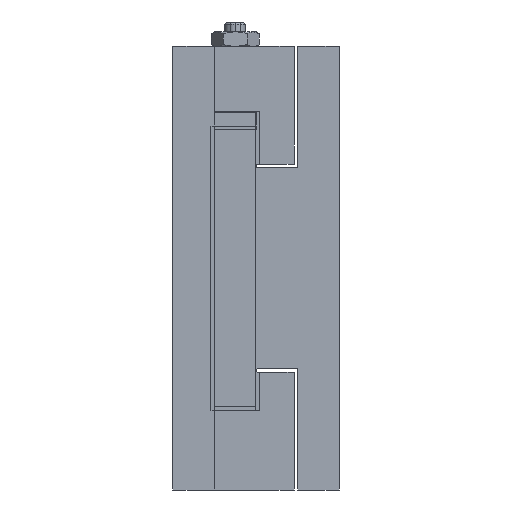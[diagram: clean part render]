
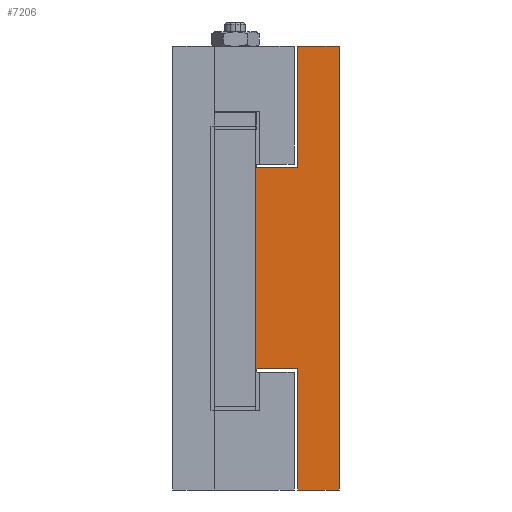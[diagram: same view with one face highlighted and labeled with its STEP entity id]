
A CAD part, left-side view. The second image highlights one B-rep face of the part: STEP entity #7206.
In plain terms, the highlighted planar face has unit normal (-1, 0, 0).
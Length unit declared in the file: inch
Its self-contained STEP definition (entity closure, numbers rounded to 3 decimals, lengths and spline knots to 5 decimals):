
#3136 = LINE ( 'NONE', #3160, #3186 ) ;
#3160 = CARTESIAN_POINT ( 'NONE',  ( 0., 0.375, 2. ) ) ;
#3185 = DIRECTION ( 'NONE',  ( 0., 0., -1. ) ) ;
#3186 = VECTOR ( 'NONE', #3185, 39.37008 ) ;
#3359 = DIRECTION ( 'NONE',  ( 0., -1., 0. ) ) ;
#3360 = VECTOR ( 'NONE', #3359, 39.37008 ) ;
#3361 = CARTESIAN_POINT ( 'NONE',  ( 0., 0.75, -0.90625 ) ) ;
#3362 = LINE ( 'NONE', #3361, #3360 ) ;
#4283 = CARTESIAN_POINT ( 'NONE',  ( 0., 0.75, -0.90625 ) ) ;
#4295 = CARTESIAN_POINT ( 'NONE',  ( 0., 0.75, 0.90625 ) ) ;
#4330 = CARTESIAN_POINT ( 'NONE',  ( 0., 0., 2. ) ) ;
#4333 = DIRECTION ( 'NONE',  ( 0., 0., 1. ) ) ;
#4334 = VECTOR ( 'NONE', #4333, 39.37008 ) ;
#4335 = CARTESIAN_POINT ( 'NONE',  ( 0., 0.75, 2. ) ) ;
#4336 = LINE ( 'NONE', #4335, #4334 ) ;
#4340 = FACE_OUTER_BOUND ( 'NONE', #7199, .T. ) ;
#4350 = PLANE ( 'NONE',  #4378 ) ;
#4356 = DIRECTION ( 'NONE',  ( 0., 0., -1. ) ) ;
#4357 = VECTOR ( 'NONE', #4356, 39.37008 ) ;
#4358 = CARTESIAN_POINT ( 'NONE',  ( 0., 0., 2. ) ) ;
#4359 = LINE ( 'NONE', #4358, #4357 ) ;
#4360 = CARTESIAN_POINT ( 'NONE',  ( 0., 0.375, 2. ) ) ;
#4361 = CARTESIAN_POINT ( 'NONE',  ( 0., 0., -2. ) ) ;
#4362 = DIRECTION ( 'NONE',  ( 0., -1., 0. ) ) ;
#4363 = VECTOR ( 'NONE', #4362, 39.37008 ) ;
#4364 = CARTESIAN_POINT ( 'NONE',  ( 0., 0.75, 2. ) ) ;
#4365 = LINE ( 'NONE', #4417, #4415 ) ;
#4369 = LINE ( 'NONE', #4364, #4363 ) ;
#4374 = DIRECTION ( 'NONE',  ( 0., 0., -1. ) ) ;
#4375 = DIRECTION ( 'NONE',  ( 1., 0., 0. ) ) ;
#4378 = AXIS2_PLACEMENT_3D ( 'NONE', #4330, #4375, #4374 ) ;
#4380 = CARTESIAN_POINT ( 'NONE',  ( 0., 0., 2. ) ) ;
#4401 = DIRECTION ( 'NONE',  ( 0., 0., -1. ) ) ;
#4402 = VECTOR ( 'NONE', #4401, 39.37008 ) ;
#4403 = CARTESIAN_POINT ( 'NONE',  ( 0., 0.375, -2. ) ) ;
#4404 = LINE ( 'NONE', #4403, #4402 ) ;
#4407 = DIRECTION ( 'NONE',  ( 0., 1., 0. ) ) ;
#4408 = CARTESIAN_POINT ( 'NONE',  ( 0., 0.375, 0.90625 ) ) ;
#4410 = VECTOR ( 'NONE', #4407, 39.37008 ) ;
#4411 = CARTESIAN_POINT ( 'NONE',  ( 0., 0.75, 0.90625 ) ) ;
#4412 = LINE ( 'NONE', #4411, #4410 ) ;
#4413 = CARTESIAN_POINT ( 'NONE',  ( 0., 0.375, -0.90625 ) ) ;
#4414 = DIRECTION ( 'NONE',  ( 0., 1., 0. ) ) ;
#4415 = VECTOR ( 'NONE', #4414, 39.37008 ) ;
#4416 = CARTESIAN_POINT ( 'NONE',  ( 0., 0.375, -2. ) ) ;
#4417 = CARTESIAN_POINT ( 'NONE',  ( 0., 0.75, -2. ) ) ;
#5987 = ORIENTED_EDGE ( 'NONE', *, *, #6659, .T. ) ;
#6562 = EDGE_CURVE ( 'NONE', #7220, #7225, #3136, .T. ) ;
#6567 = ORIENTED_EDGE ( 'NONE', *, *, #7224, .T. ) ;
#6568 = ORIENTED_EDGE ( 'NONE', *, *, #6562, .T. ) ;
#6659 = EDGE_CURVE ( 'NONE', #7160, #7221, #3362, .T. ) ;
#7160 = VERTEX_POINT ( 'NONE', #4283 ) ;
#7193 = VERTEX_POINT ( 'NONE', #4295 ) ;
#7198 = EDGE_CURVE ( 'NONE', #7160, #7193, #4336, .T. ) ;
#7199 = EDGE_LOOP ( 'NONE', ( #5987, #7228, #7222, #7227, #7218, #6568, #6567, #7215 ) ) ;
#7206 = ADVANCED_FACE ( 'NONE', ( #4340 ), #4350, .F. ) ;
#7211 = VERTEX_POINT ( 'NONE', #4380 ) ;
#7214 = EDGE_CURVE ( 'NONE', #7220, #7211, #4369, .T. ) ;
#7215 = ORIENTED_EDGE ( 'NONE', *, *, #7198, .F. ) ;
#7216 = EDGE_CURVE ( 'NONE', #7211, #7226, #4359, .T. ) ;
#7217 = EDGE_CURVE ( 'NONE', #7226, #7219, #4365, .T. ) ;
#7218 = ORIENTED_EDGE ( 'NONE', *, *, #7214, .F. ) ;
#7219 = VERTEX_POINT ( 'NONE', #4416 ) ;
#7220 = VERTEX_POINT ( 'NONE', #4360 ) ;
#7221 = VERTEX_POINT ( 'NONE', #4413 ) ;
#7222 = ORIENTED_EDGE ( 'NONE', *, *, #7217, .F. ) ;
#7224 = EDGE_CURVE ( 'NONE', #7225, #7193, #4412, .T. ) ;
#7225 = VERTEX_POINT ( 'NONE', #4408 ) ;
#7226 = VERTEX_POINT ( 'NONE', #4361 ) ;
#7227 = ORIENTED_EDGE ( 'NONE', *, *, #7216, .F. ) ;
#7228 = ORIENTED_EDGE ( 'NONE', *, *, #7229, .T. ) ;
#7229 = EDGE_CURVE ( 'NONE', #7221, #7219, #4404, .T. ) ;
